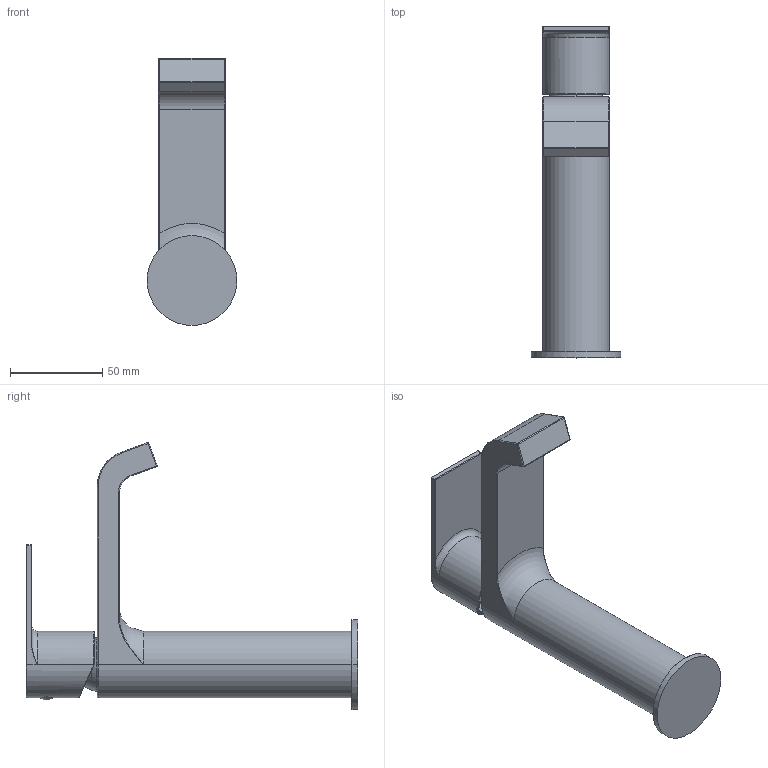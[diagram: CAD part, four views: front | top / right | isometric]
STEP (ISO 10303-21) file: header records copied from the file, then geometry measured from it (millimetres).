
FILE_DESCRIPTION((''),'2;1');
FILE_NAME('83050_SW0001','2018-09-18T11:37:49',('carloff'),(''),'CREO PARAMETRIC BY PTC INC, 2018100','CREO PARAMETRIC BY PTC INC, 2018100','');
FILE_SCHEMA(('CONFIG_CONTROL_DESIGN'));
Length unit declared in the file: millimetre
Products named in the file (1): 83050_SW0001
Bounding box: 48.8 x 180 x 144.9 mm (x, y, z)
Surface area: 47885.1 mm2 (no closed solid volume)
Topology: 0 solids, 48 shells, 192 faces, 519 edges, 372 vertices
Faces by surface type: cylinder 84, plane 34, bspline 27, torus 24, cone 13, sphere 10
Entity records: 7345 total; most frequent: CARTESIAN_POINT 2661, DIRECTION 1043, ORIENTED_EDGE 824, EDGE_CURVE 517, AXIS2_PLACEMENT_3D 426, VERTEX_POINT 372, CIRCLE 261, EDGE_LOOP 192
